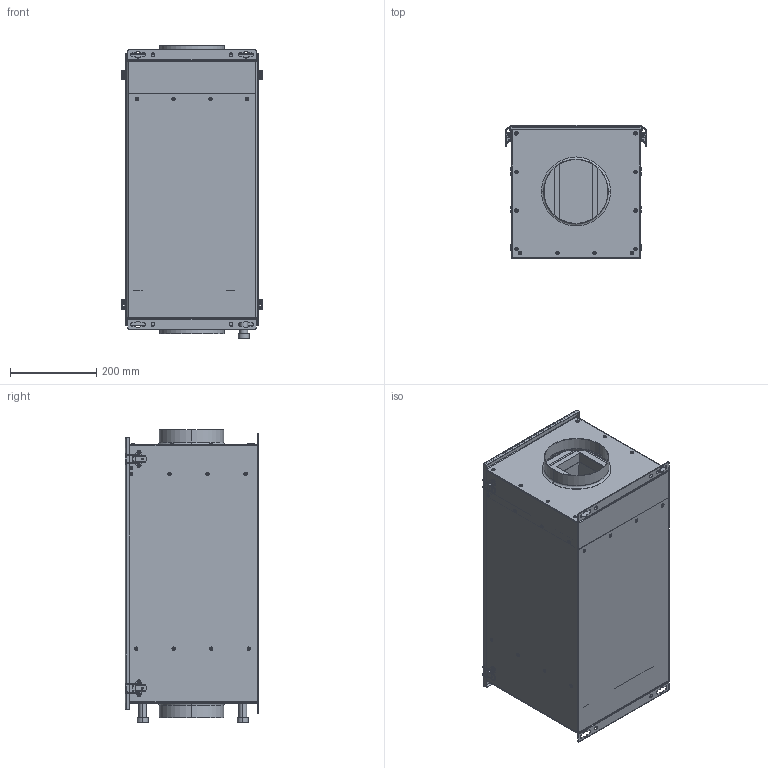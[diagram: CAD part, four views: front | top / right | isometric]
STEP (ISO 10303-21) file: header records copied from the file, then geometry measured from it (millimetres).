
FILE_DESCRIPTION (( 'STEP AP203' ), '1' );
FILE_NAME ('112851-00_FTW150_step.step', '2020-08-26T09:41:14', ( '' ), ( '' ), 'SwSTEP 2.0', 'SolidWorks 2017', '' );
FILE_SCHEMA (( 'CONFIG_CONTROL_DESIGN' ));
Length unit declared in the file: millimetre
Products named in the file (1): 112851-00_FTW150_step
Bounding box: 327.58 x 309.3 x 679 mm (x, y, z)
Surface area: 2148591.2 mm2 (no closed solid volume)
Topology: 0 solids, 95 shells, 838 faces, 2712 edges, 1866 vertices
Faces by surface type: cylinder 405, plane 225, torus 118, bspline 90
Entity records: 32201 total; most frequent: CARTESIAN_POINT 7771, DIRECTION 5634, ORIENTED_EDGE 4274, EDGE_CURVE 2712, AXIS2_PLACEMENT_3D 2255, VERTEX_POINT 1866, CIRCLE 1506, LINE 1124
